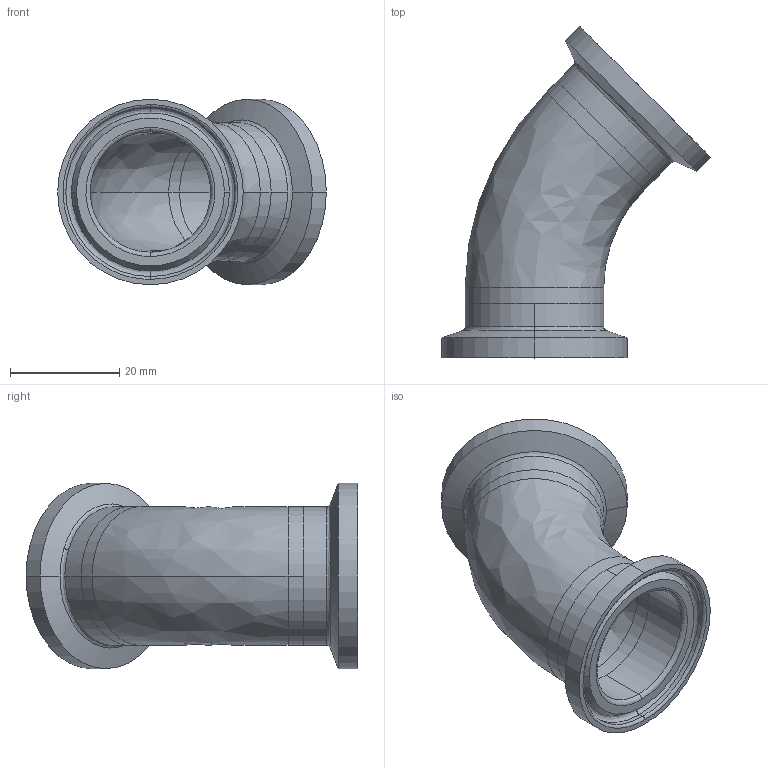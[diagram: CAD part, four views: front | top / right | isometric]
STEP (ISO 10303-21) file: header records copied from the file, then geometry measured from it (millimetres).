
FILE_DESCRIPTION (( 'STEP AP214' ), '1' );
FILE_NAME ('TEG2K6L1.0-.._ Type A.STEP', '2016-05-22T07:32:46', ( 'eran' ), ( '' ), 'SwSTEP 2.0', 'SolidWorks 2016', '' );
FILE_SCHEMA (( 'AUTOMOTIVE_DESIGN' ));
Length unit declared in the file: millimetre
Products named in the file (1): TEG2K6L1.0-.._ Type A
Bounding box: 49.25 x 60.85 x 34.01 mm (x, y, z)
Volume: 9400.5 mm3; surface area: 10892.4 mm2
Topology: 3 solids, 3 shells, 60 faces, 134 edges, 82 vertices
Faces by surface type: cylinder 24, bspline 20, plane 8, cone 8
Entity records: 1980 total; most frequent: CARTESIAN_POINT 601, DIRECTION 302, ORIENTED_EDGE 268, AXIS2_PLACEMENT_3D 135, EDGE_CURVE 134, CIRCLE 94, VERTEX_POINT 82, EDGE_LOOP 68
